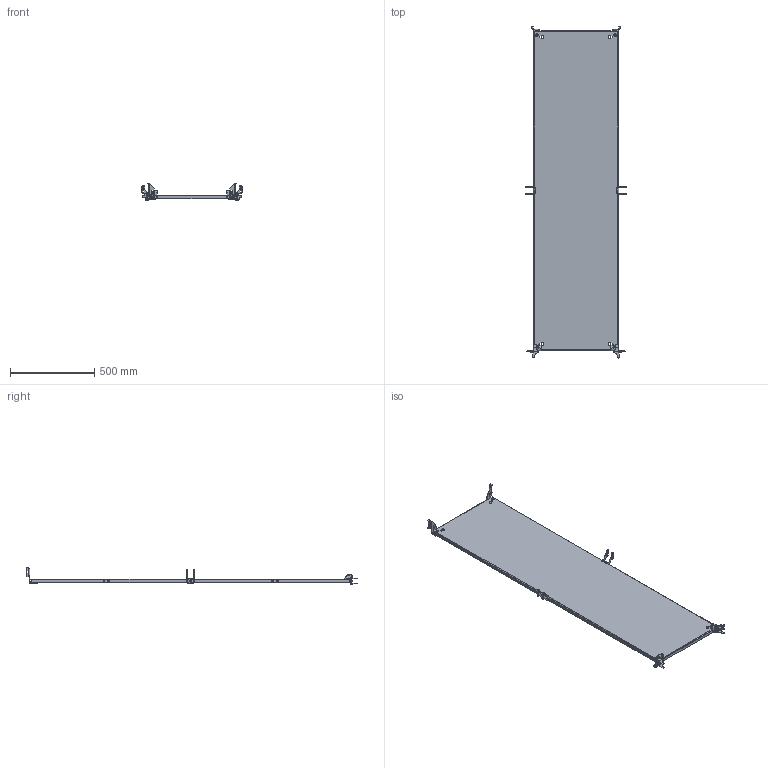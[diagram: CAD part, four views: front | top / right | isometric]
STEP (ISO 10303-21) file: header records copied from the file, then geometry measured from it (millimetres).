
FILE_DESCRIPTION (( 'STEP AP214' ), '1' );
FILE_NAME ('MSD 200.60 ÑÁ Ìîíòàæíàÿ ïàíåëü â ñáîðå.STEP', '2023-12-11T04:48:10', ( '' ), ( '' ), 'SwSTEP 2.0', 'SolidWorks 2019', '' );
FILE_SCHEMA (( 'AUTOMOTIVE_DESIGN' ));
Length unit declared in the file: millimetre
Products named in the file (8): TS-011_R Íèæíèé äåðæàòåëü ìîíòàæíîé ïàíåëè; MSD 200.60 ÑÁ Ìîíòàæíàÿ ïàíåëü â ñáîðå; TS-012 Íèæíèé äåðæàòåëü ìîíòàæíîé ïàíåëè; TS-011_L Íèæíèé äåðæàòåëü ìîíòàæíîé ïàíåëè; TS-010_R Âåðõíèé äåðæàòåëü ìîíòàæíîé ïàíåëè; TS-010_L Âåðõíèé äåðæàòåëü ìîíòàæíîé ïàíåëè; BMD 6 Ôèêñàòîð ìîíòàæíîé ïàíåëè; MSD X.Y Ìîíòàæíàÿ ïàíåëü_MSD 200.60 Œ®­â ¦­ ï ¯ ­¥«ì
Assembly tree (9 placements, depth 2):
  MSD 200.60 ÑÁ Ìîíòàæíàÿ ïàíåëü â ñáîðå
    MSD X.Y Ìîíòàæíàÿ ïàíåëü_MSD 200.60 Œ®­â ¦­ ï ¯ ­¥«ì
    TS-011_L Íèæíèé äåðæàòåëü ìîíòàæíîé ïàíåëè
    TS-011_R Íèæíèé äåðæàòåëü ìîíòàæíîé ïàíåëè
    TS-010_R Âåðõíèé äåðæàòåëü ìîíòàæíîé ïàíåëè
    TS-010_L Âåðõíèé äåðæàòåëü ìîíòàæíîé ïàíåëè
    TS-012 Íèæíèé äåðæàòåëü ìîíòàæíîé ïàíåëè  x2
    BMD 6 Ôèêñàòîð ìîíòàæíîé ïàíåëè  x2
Bounding box: 594 x 1971.5 x 103.7 mm (x, y, z)
Volume: 2891300.5 mm3; surface area: 2293052.5 mm2
Topology: 9 solids, 9 shells, 810 faces, 2202 edges, 1416 vertices
Faces by surface type: plane 450, cylinder 348, bspline 8, cone 4
Entity records: 20447 total; most frequent: CARTESIAN_POINT 3943, ORIENTED_EDGE 3396, DIRECTION 3384, EDGE_CURVE 1698, VECTOR 1156, LINE 1156, AXIS2_PLACEMENT_3D 1114, VERTEX_POINT 1094
